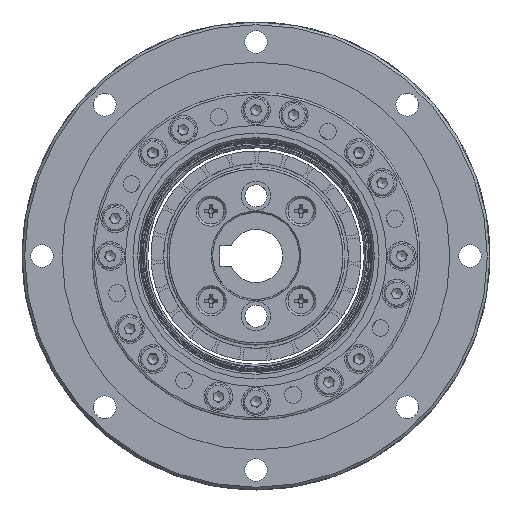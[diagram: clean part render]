
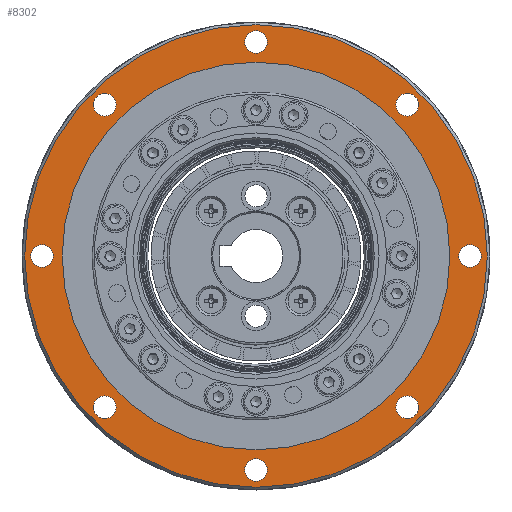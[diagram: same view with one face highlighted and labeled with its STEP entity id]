
A CAD part, left-side view. The second image highlights one B-rep face of the part: STEP entity #8302.
In plain terms, the highlighted planar face has unit normal (-1, 0, 0).
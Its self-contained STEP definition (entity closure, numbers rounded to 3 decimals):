
#137 = AXIS2_PLACEMENT_3D ( 'NONE', #13257, #22436, #1741 ) ;
#206 = CIRCLE ( 'NONE', #29663, 1.7 ) ;
#212 = EDGE_CURVE ( 'NONE', #17331, #17331, #19192, .T. ) ;
#376 = DIRECTION ( 'NONE',  ( 0., -1., 0. ) ) ;
#636 = CARTESIAN_POINT ( 'NONE',  ( -6.946, 20.927, -22.627 ) ) ;
#725 = ORIENTED_EDGE ( 'NONE', *, *, #212, .F. ) ;
#901 = DIRECTION ( 'NONE',  ( 0., -1., 0. ) ) ;
#1210 = FACE_BOUND ( 'NONE', #18455, .T. ) ;
#1288 = CARTESIAN_POINT ( 'NONE',  ( -6.946, 20.927, 22.627 ) ) ;
#1413 = ORIENTED_EDGE ( 'NONE', *, *, #6856, .F. ) ;
#1537 = VERTEX_POINT ( 'NONE', #20412 ) ;
#1741 = DIRECTION ( 'NONE',  ( 0., 1., 0. ) ) ;
#1751 = CARTESIAN_POINT ( 'NONE',  ( -6.946, -32., 0. ) ) ;
#2392 = CARTESIAN_POINT ( 'NONE',  ( -6.946, 32., 0. ) ) ;
#2583 = CARTESIAN_POINT ( 'NONE',  ( -6.946, -1.7, 32. ) ) ;
#2953 = CARTESIAN_POINT ( 'NONE',  ( -6.946, 0., -32. ) ) ;
#3003 = EDGE_CURVE ( 'NONE', #21026, #21026, #21387, .T. ) ;
#3202 = FACE_BOUND ( 'NONE', #8891, .T. ) ;
#3647 = FACE_BOUND ( 'NONE', #11954, .T. ) ;
#3805 = CARTESIAN_POINT ( 'NONE',  ( -6.946, -29., 0. ) ) ;
#4159 = VERTEX_POINT ( 'NONE', #13390 ) ;
#4658 = CARTESIAN_POINT ( 'NONE',  ( -6.946, 22.627, -22.627 ) ) ;
#4789 = CARTESIAN_POINT ( 'NONE',  ( -6.946, -22.627, -22.627 ) ) ;
#5278 = ORIENTED_EDGE ( 'NONE', *, *, #14868, .F. ) ;
#5467 = EDGE_LOOP ( 'NONE', ( #11103 ) ) ;
#5590 = DIRECTION ( 'NONE',  ( -1., 0., 0. ) ) ;
#5614 = FACE_BOUND ( 'NONE', #7426, .T. ) ;
#5624 = EDGE_LOOP ( 'NONE', ( #23431 ) ) ;
#5763 = FACE_OUTER_BOUND ( 'NONE', #5467, .T. ) ;
#6051 = FACE_BOUND ( 'NONE', #25697, .T. ) ;
#6714 = ORIENTED_EDGE ( 'NONE', *, *, #27851, .F. ) ;
#6856 = EDGE_CURVE ( 'NONE', #26013, #26013, #17243, .T. ) ;
#7426 = EDGE_LOOP ( 'NONE', ( #725 ) ) ;
#7477 = EDGE_CURVE ( 'NONE', #21480, #21480, #22497, .T. ) ;
#7480 = DIRECTION ( 'NONE',  ( -1., 0., 0. ) ) ;
#7534 = AXIS2_PLACEMENT_3D ( 'NONE', #26425, #5590, #901 ) ;
#8024 = PLANE ( 'NONE',  #25900 ) ;
#8052 = CARTESIAN_POINT ( 'NONE',  ( -6.946, -1.7, -32. ) ) ;
#8302 = ADVANCED_FACE ( 'NONE', ( #24481, #5763, #1210, #3202, #5614, #17688, #14844, #3647, #6051, #26441 ), #8024, .F. ) ;
#8735 = ORIENTED_EDGE ( 'NONE', *, *, #7477, .F. ) ;
#8789 = DIRECTION ( 'NONE',  ( 0., 1., 0. ) ) ;
#8891 = EDGE_LOOP ( 'NONE', ( #23026 ) ) ;
#9090 = CARTESIAN_POINT ( 'NONE',  ( -6.946, 0., 0. ) ) ;
#9288 = CIRCLE ( 'NONE', #13163, 29. ) ;
#9511 = CIRCLE ( 'NONE', #11922, 1.7 ) ;
#9951 = DIRECTION ( 'NONE',  ( 0., -1., 0. ) ) ;
#10635 = EDGE_LOOP ( 'NONE', ( #5278 ) ) ;
#11087 = EDGE_CURVE ( 'NONE', #27649, #27649, #21472, .T. ) ;
#11103 = ORIENTED_EDGE ( 'NONE', *, *, #3003, .F. ) ;
#11854 = DIRECTION ( 'NONE',  ( 0., -1., 0. ) ) ;
#11914 = DIRECTION ( 'NONE',  ( -1., 0., 0. ) ) ;
#11922 = AXIS2_PLACEMENT_3D ( 'NONE', #2392, #11914, #27760 ) ;
#11954 = EDGE_LOOP ( 'NONE', ( #1413 ) ) ;
#12053 = EDGE_CURVE ( 'NONE', #16198, #16198, #206, .T. ) ;
#12861 = AXIS2_PLACEMENT_3D ( 'NONE', #4658, #15859, #13452 ) ;
#13111 = DIRECTION ( 'NONE',  ( 0., -1., 0. ) ) ;
#13163 = AXIS2_PLACEMENT_3D ( 'NONE', #9090, #15900, #8789 ) ;
#13257 = CARTESIAN_POINT ( 'NONE',  ( -6.946, 0., 0. ) ) ;
#13390 = CARTESIAN_POINT ( 'NONE',  ( -6.946, 30.3, 0. ) ) ;
#13452 = DIRECTION ( 'NONE',  ( 0., -1., 0. ) ) ;
#14076 = CARTESIAN_POINT ( 'NONE',  ( -6.946, -33.7, 0. ) ) ;
#14844 = FACE_BOUND ( 'NONE', #21539, .T. ) ;
#14868 = EDGE_CURVE ( 'NONE', #18232, #18232, #9288, .T. ) ;
#14896 = CIRCLE ( 'NONE', #25935, 1.7 ) ;
#15859 = DIRECTION ( 'NONE',  ( -1., 0., 0. ) ) ;
#15900 = DIRECTION ( 'NONE',  ( -1., 0., 0. ) ) ;
#16198 = VERTEX_POINT ( 'NONE', #14076 ) ;
#16423 = DIRECTION ( 'NONE',  ( -1., 0., 0. ) ) ;
#16735 = CARTESIAN_POINT ( 'NONE',  ( -6.946, 0., 32. ) ) ;
#17243 = CIRCLE ( 'NONE', #28305, 1.7 ) ;
#17331 = VERTEX_POINT ( 'NONE', #1288 ) ;
#17688 = FACE_BOUND ( 'NONE', #20674, .T. ) ;
#18232 = VERTEX_POINT ( 'NONE', #20474 ) ;
#18455 = EDGE_LOOP ( 'NONE', ( #6714 ) ) ;
#18518 = ORIENTED_EDGE ( 'NONE', *, *, #11087, .F. ) ;
#19192 = CIRCLE ( 'NONE', #26902, 1.7 ) ;
#19376 = CARTESIAN_POINT ( 'NONE',  ( -6.946, 34.6, 0. ) ) ;
#20179 = DIRECTION ( 'NONE',  ( -1., 0., 0. ) ) ;
#20412 = CARTESIAN_POINT ( 'NONE',  ( -6.946, -24.327, 22.627 ) ) ;
#20474 = CARTESIAN_POINT ( 'NONE',  ( -6.946, 29., 0. ) ) ;
#20522 = DIRECTION ( 'NONE',  ( 0., -1., 0. ) ) ;
#20674 = EDGE_LOOP ( 'NONE', ( #23228 ) ) ;
#21026 = VERTEX_POINT ( 'NONE', #19376 ) ;
#21038 = CIRCLE ( 'NONE', #7534, 1.7 ) ;
#21387 = CIRCLE ( 'NONE', #137, 34.6 ) ;
#21472 = CIRCLE ( 'NONE', #22930, 1.7 ) ;
#21480 = VERTEX_POINT ( 'NONE', #636 ) ;
#21539 = EDGE_LOOP ( 'NONE', ( #8735 ) ) ;
#22068 = DIRECTION ( 'NONE',  ( 0., 1., 0. ) ) ;
#22436 = DIRECTION ( 'NONE',  ( 1., 0., 0. ) ) ;
#22497 = CIRCLE ( 'NONE', #12861, 1.7 ) ;
#22815 = CARTESIAN_POINT ( 'NONE',  ( -6.946, -24.327, -22.627 ) ) ;
#22846 = EDGE_CURVE ( 'NONE', #4159, #4159, #9511, .T. ) ;
#22930 = AXIS2_PLACEMENT_3D ( 'NONE', #4789, #16423, #376 ) ;
#23026 = ORIENTED_EDGE ( 'NONE', *, *, #29785, .F. ) ;
#23092 = DIRECTION ( 'NONE',  ( -1., 0., 0. ) ) ;
#23228 = ORIENTED_EDGE ( 'NONE', *, *, #22846, .F. ) ;
#23369 = CARTESIAN_POINT ( 'NONE',  ( -6.946, 22.627, 22.627 ) ) ;
#23431 = ORIENTED_EDGE ( 'NONE', *, *, #12053, .F. ) ;
#24481 = FACE_BOUND ( 'NONE', #10635, .T. ) ;
#25697 = EDGE_LOOP ( 'NONE', ( #18518 ) ) ;
#25830 = VERTEX_POINT ( 'NONE', #2583 ) ;
#25900 = AXIS2_PLACEMENT_3D ( 'NONE', #3805, #26891, #22068 ) ;
#25935 = AXIS2_PLACEMENT_3D ( 'NONE', #16735, #23092, #20522 ) ;
#26013 = VERTEX_POINT ( 'NONE', #8052 ) ;
#26425 = CARTESIAN_POINT ( 'NONE',  ( -6.946, -22.627, 22.627 ) ) ;
#26441 = FACE_BOUND ( 'NONE', #5624, .T. ) ;
#26891 = DIRECTION ( 'NONE',  ( 1., 0., 0. ) ) ;
#26902 = AXIS2_PLACEMENT_3D ( 'NONE', #23369, #28207, #9951 ) ;
#27649 = VERTEX_POINT ( 'NONE', #22815 ) ;
#27760 = DIRECTION ( 'NONE',  ( 0., -1., 0. ) ) ;
#27851 = EDGE_CURVE ( 'NONE', #1537, #1537, #21038, .T. ) ;
#28207 = DIRECTION ( 'NONE',  ( -1., 0., 0. ) ) ;
#28305 = AXIS2_PLACEMENT_3D ( 'NONE', #2953, #7480, #11854 ) ;
#29663 = AXIS2_PLACEMENT_3D ( 'NONE', #1751, #20179, #13111 ) ;
#29785 = EDGE_CURVE ( 'NONE', #25830, #25830, #14896, .T. ) ;
